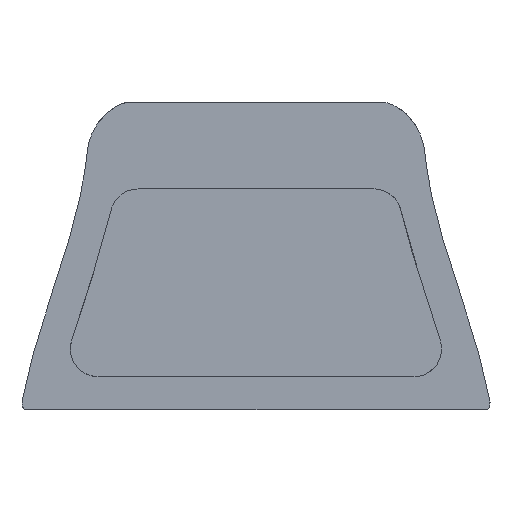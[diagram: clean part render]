
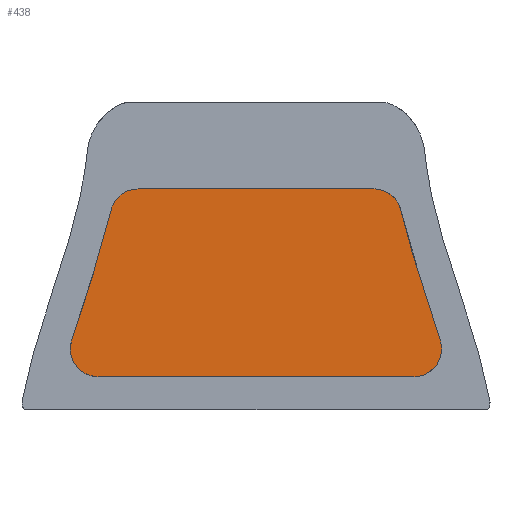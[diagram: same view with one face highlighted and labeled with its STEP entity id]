
A CAD part, top view. The second image highlights one B-rep face of the part: STEP entity #438.
In plain terms, the highlighted planar face has unit normal (0, 0, 1).
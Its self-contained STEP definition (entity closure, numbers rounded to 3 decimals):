
#18=PLANE('',#459);
#31=FACE_OUTER_BOUND('',#56,.T.);
#56=EDGE_LOOP('',(#312,#313,#314,#315,#316,#317,#318,#319));
#77=LINE('',#561,#107);
#83=LINE('',#684,#113);
#107=VECTOR('',#471,10.);
#113=VECTOR('',#479,10.);
#135=B_SPLINE_CURVE_WITH_KNOTS('',3,(#546,#547,#548,#549,#550,#551,#552,
#553,#554,#555),.UNSPECIFIED.,.F.,.F.,(4,3,3,4),(-1.123,-1.041,
-0.528,0.),.UNSPECIFIED.);
#137=B_SPLINE_CURVE_WITH_KNOTS('',3,(#595,#596,#597,#598,#599,#600,#601,
#602,#603,#604),.UNSPECIFIED.,.F.,.F.,(4,3,3,4),(-1.123,-1.041,
-0.528,0.),.UNSPECIFIED.);
#139=B_SPLINE_CURVE_WITH_KNOTS('',3,(#638,#639,#640,#641,#642,#643,#644,
#645,#646,#647),.UNSPECIFIED.,.F.,.F.,(4,3,3,4),(-4.864,-3.59,
-2.429,-1.664),.UNSPECIFIED.);
#141=B_SPLINE_CURVE_WITH_KNOTS('',3,(#672,#673,#674,#675,#676,#677,#678),
 .UNSPECIFIED.,.F.,.F.,(4,3,4),(-0.809,-0.547,0.),
 .UNSPECIFIED.);
#143=B_SPLINE_CURVE_WITH_KNOTS('',3,(#709,#710,#711,#712,#713,#714,#715),
 .UNSPECIFIED.,.F.,.F.,(4,3,4),(-0.809,-0.547,0.),
 .UNSPECIFIED.);
#145=B_SPLINE_CURVE_WITH_KNOTS('',3,(#747,#748,#749,#750,#751,#752,#753,
#754,#755,#756),.UNSPECIFIED.,.F.,.F.,(4,3,3,4),(-4.136,-3.058,
-2.349,-1.145),.UNSPECIFIED.);
#172=VERTEX_POINT('',#543);
#173=VERTEX_POINT('',#545);
#175=VERTEX_POINT('',#560);
#177=VERTEX_POINT('',#594);
#179=VERTEX_POINT('',#637);
#181=VERTEX_POINT('',#671);
#183=VERTEX_POINT('',#683);
#185=VERTEX_POINT('',#708);
#216=EDGE_CURVE('',#173,#172,#135,.T.);
#219=EDGE_CURVE('',#175,#173,#77,.T.);
#222=EDGE_CURVE('',#177,#175,#137,.T.);
#225=EDGE_CURVE('',#179,#177,#139,.T.);
#228=EDGE_CURVE('',#181,#179,#141,.T.);
#231=EDGE_CURVE('',#183,#181,#83,.T.);
#234=EDGE_CURVE('',#185,#183,#143,.T.);
#237=EDGE_CURVE('',#172,#185,#145,.T.);
#312=ORIENTED_EDGE('',*,*,#237,.T.);
#313=ORIENTED_EDGE('',*,*,#234,.T.);
#314=ORIENTED_EDGE('',*,*,#231,.T.);
#315=ORIENTED_EDGE('',*,*,#228,.T.);
#316=ORIENTED_EDGE('',*,*,#225,.T.);
#317=ORIENTED_EDGE('',*,*,#222,.T.);
#318=ORIENTED_EDGE('',*,*,#219,.T.);
#319=ORIENTED_EDGE('',*,*,#216,.T.);
#438=ADVANCED_FACE('',(#31),#18,.T.);
#459=AXIS2_PLACEMENT_3D('',#757,#482,#483);
#471=DIRECTION('',(1.,0.,0.));
#479=DIRECTION('',(-1.,0.,0.));
#482=DIRECTION('center_axis',(0.,0.,
1.));
#483=DIRECTION('ref_axis',(-1.,0.,0.));
#543=CARTESIAN_POINT('',(39.331,-32.189,-14.75));
#545=CARTESIAN_POINT('',(33.687,-39.81,-14.75));
#546=CARTESIAN_POINT('Ctrl Pts',(33.687,-39.81,-14.75));
#547=CARTESIAN_POINT('Ctrl Pts',(33.956,-39.81,-14.75));
#548=CARTESIAN_POINT('Ctrl Pts',(34.224,-39.791,-14.75));
#549=CARTESIAN_POINT('Ctrl Pts',(34.49,-39.755,-14.75));
#550=CARTESIAN_POINT('Ctrl Pts',(36.151,-39.527,-14.75));
#551=CARTESIAN_POINT('Ctrl Pts',(37.698,-38.551,-14.75));
#552=CARTESIAN_POINT('Ctrl Pts',(38.618,-37.149,-14.75));
#553=CARTESIAN_POINT('Ctrl Pts',(39.565,-35.708,-14.75));
#554=CARTESIAN_POINT('Ctrl Pts',(39.836,-33.844,-14.75));
#555=CARTESIAN_POINT('Ctrl Pts',(39.331,-32.189,-14.75));
#560=CARTESIAN_POINT('',(-33.688,-39.809,-14.75));
#561=CARTESIAN_POINT('',(-33.688,-39.809,-14.75));
#594=CARTESIAN_POINT('',(-39.331,-32.188,-14.75));
#595=CARTESIAN_POINT('Ctrl Pts',(-39.331,-32.188,-14.75));
#596=CARTESIAN_POINT('Ctrl Pts',(-39.409,-32.446,-14.75));
#597=CARTESIAN_POINT('Ctrl Pts',(-39.47,-32.708,-14.75));
#598=CARTESIAN_POINT('Ctrl Pts',(-39.513,-32.972,-14.75));
#599=CARTESIAN_POINT('Ctrl Pts',(-39.779,-34.627,-14.75));
#600=CARTESIAN_POINT('Ctrl Pts',(-39.296,-36.392,-14.75));
#601=CARTESIAN_POINT('Ctrl Pts',(-38.225,-37.681,-14.75));
#602=CARTESIAN_POINT('Ctrl Pts',(-37.122,-39.007,-14.75));
#603=CARTESIAN_POINT('Ctrl Pts',(-35.418,-39.809,-14.75));
#604=CARTESIAN_POINT('Ctrl Pts',(-33.688,-39.809,-14.75));
#637=CARTESIAN_POINT('',(-30.914,-4.348,-14.75));
#638=CARTESIAN_POINT('Ctrl Pts',(-30.914,-4.348,-14.75));
#639=CARTESIAN_POINT('Ctrl Pts',(-31.81,-8.256,-14.75));
#640=CARTESIAN_POINT('Ctrl Pts',(-32.881,-11.999,-14.75));
#641=CARTESIAN_POINT('Ctrl Pts',(-34.036,-15.716,-14.75));
#642=CARTESIAN_POINT('Ctrl Pts',(-35.089,-19.104,-14.75));
#643=CARTESIAN_POINT('Ctrl Pts',(-36.228,-22.515,-14.75));
#644=CARTESIAN_POINT('Ctrl Pts',(-37.297,-25.79,-14.75));
#645=CARTESIAN_POINT('Ctrl Pts',(-38.002,-27.947,-14.75));
#646=CARTESIAN_POINT('Ctrl Pts',(-38.684,-30.067,-14.75));
#647=CARTESIAN_POINT('Ctrl Pts',(-39.331,-32.188,-14.75));
#671=CARTESIAN_POINT('',(-25.163,0.234,-14.75));
#672=CARTESIAN_POINT('Ctrl Pts',(-25.163,0.234,-14.75));
#673=CARTESIAN_POINT('Ctrl Pts',(-26.023,0.234,-14.75));
#674=CARTESIAN_POINT('Ctrl Pts',(-26.879,0.044,-14.75));
#675=CARTESIAN_POINT('Ctrl Pts',(-27.656,-0.318,-14.75));
#676=CARTESIAN_POINT('Ctrl Pts',(-29.277,-1.074,-14.75));
#677=CARTESIAN_POINT('Ctrl Pts',(-30.513,-2.599,-14.75));
#678=CARTESIAN_POINT('Ctrl Pts',(-30.914,-4.348,-14.75));
#683=CARTESIAN_POINT('',(25.163,0.234,-14.75));
#684=CARTESIAN_POINT('',(25.163,0.234,-14.75));
#708=CARTESIAN_POINT('',(30.914,-4.348,-14.75));
#709=CARTESIAN_POINT('Ctrl Pts',(30.914,-4.348,-14.75));
#710=CARTESIAN_POINT('Ctrl Pts',(30.722,-3.51,-14.75));
#711=CARTESIAN_POINT('Ctrl Pts',(30.345,-2.718,-14.75));
#712=CARTESIAN_POINT('Ctrl Pts',(29.818,-2.042,-14.75));
#713=CARTESIAN_POINT('Ctrl Pts',(28.719,-0.63,-14.75));
#714=CARTESIAN_POINT('Ctrl Pts',(26.956,0.234,-14.75));
#715=CARTESIAN_POINT('Ctrl Pts',(25.163,0.234,-14.75));
#747=CARTESIAN_POINT('Ctrl Pts',(39.331,-32.189,-14.75));
#748=CARTESIAN_POINT('Ctrl Pts',(38.356,-28.992,-14.75));
#749=CARTESIAN_POINT('Ctrl Pts',(37.301,-25.8,-14.75));
#750=CARTESIAN_POINT('Ctrl Pts',(36.21,-22.474,-14.75));
#751=CARTESIAN_POINT('Ctrl Pts',(35.492,-20.286,-14.75));
#752=CARTESIAN_POINT('Ctrl Pts',(34.764,-18.057,-14.75));
#753=CARTESIAN_POINT('Ctrl Pts',(34.075,-15.843,-14.75));
#754=CARTESIAN_POINT('Ctrl Pts',(32.905,-12.085,-14.75));
#755=CARTESIAN_POINT('Ctrl Pts',(31.819,-8.301,-14.75));
#756=CARTESIAN_POINT('Ctrl Pts',(30.914,-4.348,-14.75));
#757=CARTESIAN_POINT('Origin',(0.028,-19.787,-14.75));
